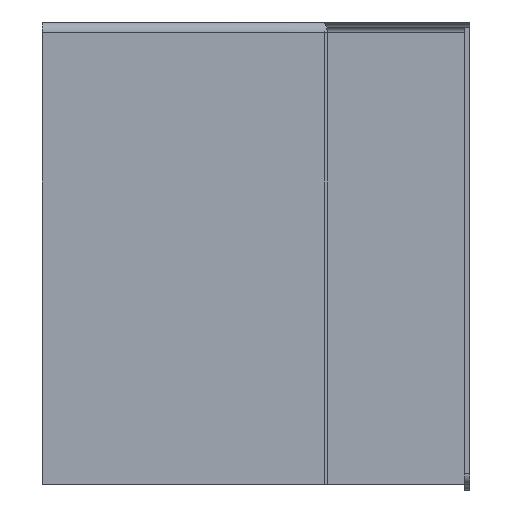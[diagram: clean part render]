
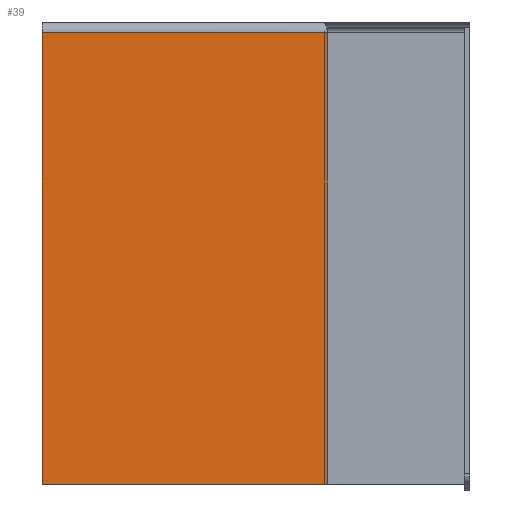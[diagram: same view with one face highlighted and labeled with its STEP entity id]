
A CAD part, left-side view. The second image highlights one B-rep face of the part: STEP entity #39.
In plain terms, the highlighted planar face has unit normal (-1, 0, 0).
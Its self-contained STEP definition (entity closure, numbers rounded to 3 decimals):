
#39=ADVANCED_FACE('',(#67),#449,.T.);
#67=FACE_OUTER_BOUND('',#95,.T.);
#95=EDGE_LOOP('',(#179,#180,#181,#182));
#179=ORIENTED_EDGE('',*,*,#293,.T.);
#180=ORIENTED_EDGE('',*,*,#282,.T.);
#181=ORIENTED_EDGE('',*,*,#283,.F.);
#182=ORIENTED_EDGE('',*,*,#279,.T.);
#279=EDGE_CURVE('',#408,#421,#364,.T.);
#282=EDGE_CURVE('',#422,#409,#367,.T.);
#283=EDGE_CURVE('',#408,#409,#368,.T.);
#293=EDGE_CURVE('',#421,#422,#329,.T.);
#329=(
BOUNDED_CURVE()
B_SPLINE_CURVE(1,(#876,#877),.UNSPECIFIED.,.F.,.F.)
B_SPLINE_CURVE_WITH_KNOTS((2,2),(0.,127.),.UNSPECIFIED.)
CURVE()
GEOMETRIC_REPRESENTATION_ITEM()
RATIONAL_B_SPLINE_CURVE((1.,1.))
REPRESENTATION_ITEM('')
);
#364=B_SPLINE_CURVE_WITH_KNOTS('',1,(#829,#830),.UNSPECIFIED.,.F.,.F.,(2,
2),(-477.878,-397.878),.UNSPECIFIED.);
#367=B_SPLINE_CURVE_WITH_KNOTS('',1,(#843,#844),.UNSPECIFIED.,.F.,.F.,(2,
2),(397.878,477.878),.UNSPECIFIED.);
#368=B_SPLINE_CURVE_WITH_KNOTS('',1,(#845,#846),.UNSPECIFIED.,.F.,.F.,(2,
2),(507.75,634.75),.UNSPECIFIED.);
#408=VERTEX_POINT('',#776);
#409=VERTEX_POINT('',#777);
#421=VERTEX_POINT('',#789);
#422=VERTEX_POINT('',#790);
#449=PLANE('',#561);
#561=AXIS2_PLACEMENT_3D('',#759,#594,$);
#594=DIRECTION('',(-1.,0.,0.));
#759=CARTESIAN_POINT('',(-5725.279,2015.41,0.));
#776=CARTESIAN_POINT('',(-5725.279,2493.288,0.));
#777=CARTESIAN_POINT('',(-5725.279,2493.288,127.));
#789=CARTESIAN_POINT('',(-5725.279,2413.288,0.));
#790=CARTESIAN_POINT('',(-5725.279,2413.288,127.));
#829=CARTESIAN_POINT('',(-5725.279,2493.288,0.));
#830=CARTESIAN_POINT('',(-5725.279,2413.288,0.));
#843=CARTESIAN_POINT('',(-5725.279,2413.288,127.));
#844=CARTESIAN_POINT('',(-5725.279,2493.288,127.));
#845=CARTESIAN_POINT('',(-5725.279,2493.288,0.));
#846=CARTESIAN_POINT('',(-5725.279,2493.288,127.));
#876=CARTESIAN_POINT('',(-5725.279,2413.288,0.));
#877=CARTESIAN_POINT('',(-5725.279,2413.288,127.));
